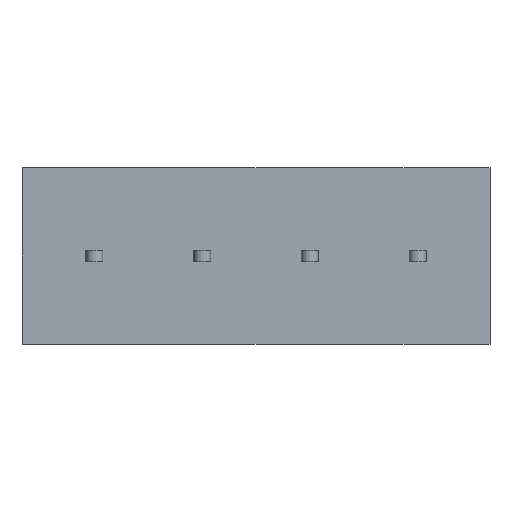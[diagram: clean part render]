
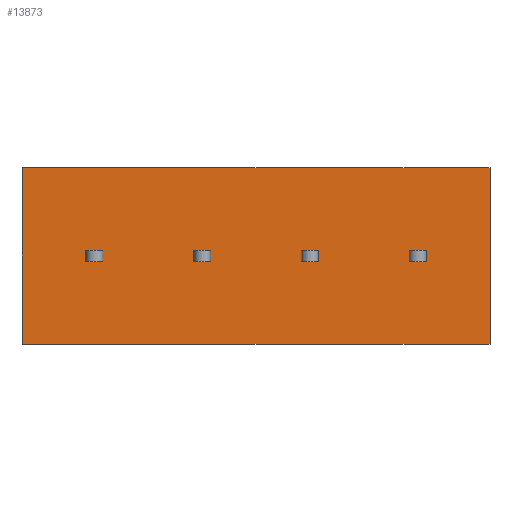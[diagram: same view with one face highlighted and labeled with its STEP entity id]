
A CAD part, front view. The second image highlights one B-rep face of the part: STEP entity #13873.
In plain terms, the highlighted planar face has unit normal (0, -1, 0).
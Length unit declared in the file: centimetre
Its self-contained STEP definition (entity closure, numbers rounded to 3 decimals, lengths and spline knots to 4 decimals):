
#909=VERTEX_POINT('',#17563);
#910=VERTEX_POINT('',#17564);
#913=VERTEX_POINT('',#17572);
#928=VERTEX_POINT('',#17616);
#1263=VERTEX_POINT('',#19117);
#1264=VERTEX_POINT('',#19119);
#1410=VERTEX_POINT('',#19601);
#1411=VERTEX_POINT('',#19602);
#1414=VERTEX_POINT('',#19610);
#1432=VERTEX_POINT('',#19659);
#1582=VERTEX_POINT('',#20169);
#1583=VERTEX_POINT('',#20170);
#1586=VERTEX_POINT('',#20178);
#1604=VERTEX_POINT('',#20227);
#1754=VERTEX_POINT('',#20737);
#1755=VERTEX_POINT('',#20738);
#1758=VERTEX_POINT('',#20746);
#1776=VERTEX_POINT('',#20795);
#2137=VERTEX_POINT('',#22377);
#2138=VERTEX_POINT('',#22379);
#2279=VECTOR('',#14727,1.);
#2282=VECTOR('',#14733,1.);
#2300=VECTOR('',#14768,1.);
#2303=VECTOR('',#14776,1.);
#2701=VECTOR('',#15315,1.);
#2843=VECTOR('',#15638,1.);
#2847=VECTOR('',#15643,1.);
#2865=VECTOR('',#15683,1.);
#2867=VECTOR('',#15686,1.);
#3021=VECTOR('',#16030,1.);
#3025=VECTOR('',#16035,1.);
#3043=VECTOR('',#16075,1.);
#3045=VECTOR('',#16078,1.);
#3199=VECTOR('',#16422,1.);
#3203=VECTOR('',#16427,1.);
#3221=VECTOR('',#16467,1.);
#3223=VECTOR('',#16470,1.);
#3661=VECTOR('',#17075,1.);
#3671=VECTOR('',#17090,1.);
#3672=VECTOR('',#17092,1.);
#3811=LINE('',#17562,#2279);
#3814=LINE('',#17571,#2282);
#3832=LINE('',#17615,#2300);
#3835=LINE('',#17623,#2303);
#4233=LINE('',#19118,#2701);
#4375=LINE('',#19600,#2843);
#4379=LINE('',#19609,#2847);
#4397=LINE('',#19658,#2865);
#4399=LINE('',#19662,#2867);
#4553=LINE('',#20168,#3021);
#4557=LINE('',#20177,#3025);
#4575=LINE('',#20226,#3043);
#4577=LINE('',#20230,#3045);
#4731=LINE('',#20736,#3199);
#4735=LINE('',#20745,#3203);
#4753=LINE('',#20794,#3221);
#4755=LINE('',#20798,#3223);
#5193=LINE('',#22378,#3661);
#5203=LINE('',#22397,#3671);
#5204=LINE('',#22399,#3672);
#5415=EDGE_CURVE('',#909,#910,#3811,.T.);
#5419=EDGE_CURVE('',#910,#913,#3814,.T.);
#5441=EDGE_CURVE('',#913,#928,#3832,.T.);
#5445=EDGE_CURVE('',#928,#909,#3835,.T.);
#5949=EDGE_CURVE('',#1264,#1263,#4233,.T.);
#6167=EDGE_CURVE('',#1410,#1411,#4375,.T.);
#6171=EDGE_CURVE('',#1414,#1410,#4379,.T.);
#6195=EDGE_CURVE('',#1432,#1414,#4397,.T.);
#6197=EDGE_CURVE('',#1411,#1432,#4399,.T.);
#6427=EDGE_CURVE('',#1582,#1583,#4553,.T.);
#6431=EDGE_CURVE('',#1586,#1582,#4557,.T.);
#6455=EDGE_CURVE('',#1604,#1586,#4575,.T.);
#6457=EDGE_CURVE('',#1583,#1604,#4577,.T.);
#6687=EDGE_CURVE('',#1754,#1755,#4731,.T.);
#6691=EDGE_CURVE('',#1758,#1754,#4735,.T.);
#6715=EDGE_CURVE('',#1776,#1758,#4753,.T.);
#6717=EDGE_CURVE('',#1755,#1776,#4755,.T.);
#7265=EDGE_CURVE('',#2138,#2137,#5193,.T.);
#7275=EDGE_CURVE('',#2138,#1263,#5203,.T.);
#7276=EDGE_CURVE('',#2137,#1264,#5204,.T.);
#11374=ORIENTED_EDGE('',*,*,#5441,.F.);
#11375=ORIENTED_EDGE('',*,*,#5419,.F.);
#11376=ORIENTED_EDGE('',*,*,#5415,.F.);
#11377=ORIENTED_EDGE('',*,*,#5445,.F.);
#11378=ORIENTED_EDGE('',*,*,#6171,.T.);
#11379=ORIENTED_EDGE('',*,*,#6167,.T.);
#11380=ORIENTED_EDGE('',*,*,#6197,.T.);
#11381=ORIENTED_EDGE('',*,*,#6195,.T.);
#11382=ORIENTED_EDGE('',*,*,#6431,.T.);
#11383=ORIENTED_EDGE('',*,*,#6427,.T.);
#11384=ORIENTED_EDGE('',*,*,#6457,.T.);
#11385=ORIENTED_EDGE('',*,*,#6455,.T.);
#11386=ORIENTED_EDGE('',*,*,#6691,.T.);
#11387=ORIENTED_EDGE('',*,*,#6687,.T.);
#11388=ORIENTED_EDGE('',*,*,#6717,.T.);
#11389=ORIENTED_EDGE('',*,*,#6715,.T.);
#11390=ORIENTED_EDGE('',*,*,#7265,.T.);
#11391=ORIENTED_EDGE('',*,*,#7276,.T.);
#11392=ORIENTED_EDGE('',*,*,#5949,.T.);
#11393=ORIENTED_EDGE('',*,*,#7275,.F.);
#12257=EDGE_LOOP('',(#11374,#11375,#11376,#11377));
#12258=EDGE_LOOP('',(#11378,#11379,#11380,#11381));
#12259=EDGE_LOOP('',(#11382,#11383,#11384,#11385));
#12260=EDGE_LOOP('',(#11386,#11387,#11388,#11389));
#12261=EDGE_LOOP('',(#11390,#11391,#11392,#11393));
#13099=FACE_BOUND('',#12257,.T.);
#13100=FACE_BOUND('',#12258,.T.);
#13101=FACE_BOUND('',#12259,.T.);
#13102=FACE_BOUND('',#12260,.T.);
#13103=FACE_BOUND('',#12261,.T.);
#13873=ADVANCED_FACE('',(#13099,#13100,#13101,#13102,#13103),#14417,.T.);
#14417=PLANE('',#23247);
#14727=DIRECTION('',(-1.,0.,0.));
#14733=DIRECTION('',(0.,0.,-1.));
#14768=DIRECTION('',(1.,0.,0.));
#14776=DIRECTION('',(0.,0.,1.));
#15315=DIRECTION('',(0.,0.,1.));
#15638=DIRECTION('',(0.,0.,1.));
#15643=DIRECTION('',(-1.,0.,0.));
#15683=DIRECTION('',(0.,0.,-1.));
#15686=DIRECTION('',(1.,0.,0.));
#16030=DIRECTION('',(0.,0.,1.));
#16035=DIRECTION('',(-1.,0.,0.));
#16075=DIRECTION('',(0.,0.,-1.));
#16078=DIRECTION('',(1.,0.,0.));
#16422=DIRECTION('',(0.,0.,1.));
#16427=DIRECTION('',(-1.,0.,0.));
#16467=DIRECTION('',(0.,0.,-1.));
#16470=DIRECTION('',(1.,0.,0.));
#17075=DIRECTION('',(0.,0.,-1.));
#17090=DIRECTION('',(1.,0.,0.));
#17091=DIRECTION('',(0.,-1.,0.));
#17092=DIRECTION('',(1.,0.,0.));
#17562=CARTESIAN_POINT('',(-0.465,0.,0.04));
#17563=CARTESIAN_POINT('',(-0.25,0.,0.04));
#17564=CARTESIAN_POINT('',(-0.37,0.,0.04));
#17571=CARTESIAN_POINT('',(-0.37,0.,-0.1675));
#17572=CARTESIAN_POINT('',(-0.37,0.,-0.04));
#17615=CARTESIAN_POINT('',(-0.465,0.,-0.04));
#17616=CARTESIAN_POINT('',(-0.25,0.,-0.04));
#17623=CARTESIAN_POINT('',(-0.25,0.,-0.1675));
#19117=CARTESIAN_POINT('',(2.488,0.,0.625));
#19118=CARTESIAN_POINT('',(2.488,0.,0.625));
#19119=CARTESIAN_POINT('',(2.488,0.,-0.625));
#19600=CARTESIAN_POINT('',(1.916,0.,-0.1675));
#19601=CARTESIAN_POINT('',(1.916,0.,-0.04));
#19602=CARTESIAN_POINT('',(1.916,0.,0.04));
#19609=CARTESIAN_POINT('',(0.988,0.,-0.04));
#19610=CARTESIAN_POINT('',(2.036,0.,-0.04));
#19658=CARTESIAN_POINT('',(2.036,0.,-0.1675));
#19659=CARTESIAN_POINT('',(2.036,0.,0.04));
#19662=CARTESIAN_POINT('',(0.988,0.,0.04));
#20168=CARTESIAN_POINT('',(1.154,0.,-0.1675));
#20169=CARTESIAN_POINT('',(1.154,0.,-0.04));
#20170=CARTESIAN_POINT('',(1.154,0.,0.04));
#20177=CARTESIAN_POINT('',(0.607,0.,-0.04));
#20178=CARTESIAN_POINT('',(1.274,0.,-0.04));
#20226=CARTESIAN_POINT('',(1.274,0.,-0.1675));
#20227=CARTESIAN_POINT('',(1.274,0.,0.04));
#20230=CARTESIAN_POINT('',(0.607,0.,0.04));
#20736=CARTESIAN_POINT('',(0.392,0.,-0.1675));
#20737=CARTESIAN_POINT('',(0.392,0.,-0.04));
#20738=CARTESIAN_POINT('',(0.392,0.,0.04));
#20745=CARTESIAN_POINT('',(0.226,0.,-0.04));
#20746=CARTESIAN_POINT('',(0.512,0.,-0.04));
#20794=CARTESIAN_POINT('',(0.512,0.,-0.1675));
#20795=CARTESIAN_POINT('',(0.512,0.,0.04));
#20798=CARTESIAN_POINT('',(0.226,0.,0.04));
#22377=CARTESIAN_POINT('',(-0.822,0.,-0.625));
#22378=CARTESIAN_POINT('',(-0.822,0.,-0.625));
#22379=CARTESIAN_POINT('',(-0.822,0.,0.625));
#22397=CARTESIAN_POINT('',(-0.762,0.,0.625));
#22398=CARTESIAN_POINT('',(-0.762,0.,0.));
#22399=CARTESIAN_POINT('',(-0.762,0.,-0.625));
#23247=AXIS2_PLACEMENT_3D('',#22398,#17091,$);
